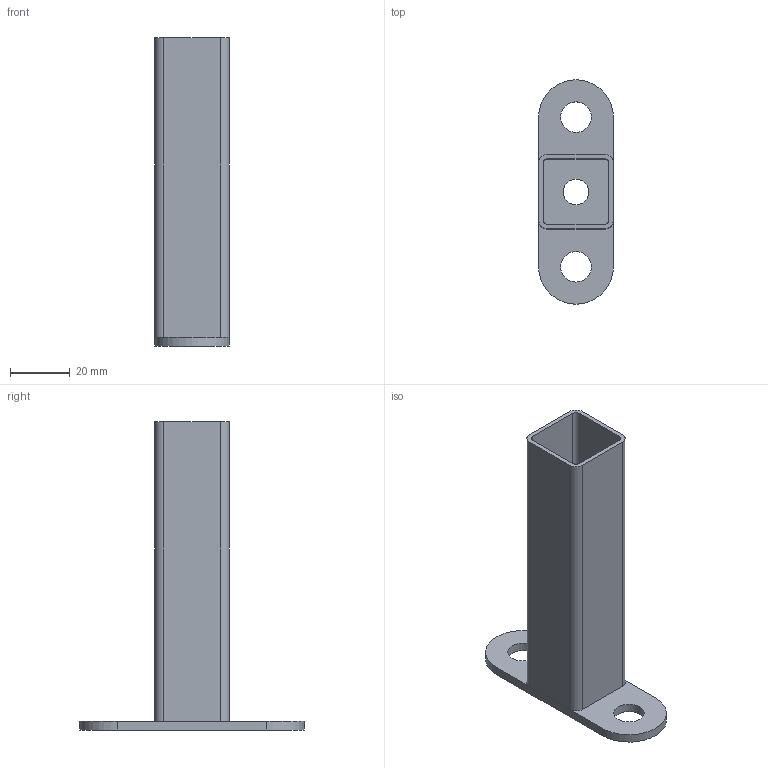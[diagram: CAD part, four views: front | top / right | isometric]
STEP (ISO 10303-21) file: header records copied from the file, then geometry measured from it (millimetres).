
FILE_DESCRIPTION (( 'STEP AP214' ), '1' );
FILE_NAME ('7640410.STEP', '2024-01-25T10:49:25', ( '' ), ( '' ), 'SwSTEP 2.0', 'SolidWorks 2022', '' );
FILE_SCHEMA (( 'AUTOMOTIVE_DESIGN' ));
Length unit declared in the file: millimetre
Products named in the file (1): 7640410
Bounding box: 25 x 75 x 103 mm (x, y, z)
Volume: 18077.9 mm3; surface area: 22145 mm2
Topology: 2 solids, 2 shells, 30 faces, 78 edges, 52 vertices
Faces by surface type: cylinder 16, plane 14
Entity records: 993 total; most frequent: DIRECTION 172, CARTESIAN_POINT 161, ORIENTED_EDGE 156, EDGE_CURVE 78, AXIS2_PLACEMENT_3D 63, VERTEX_POINT 52, LINE 46, VECTOR 46
